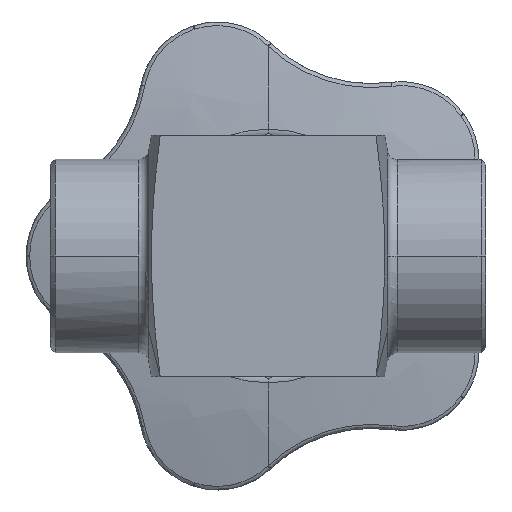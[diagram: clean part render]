
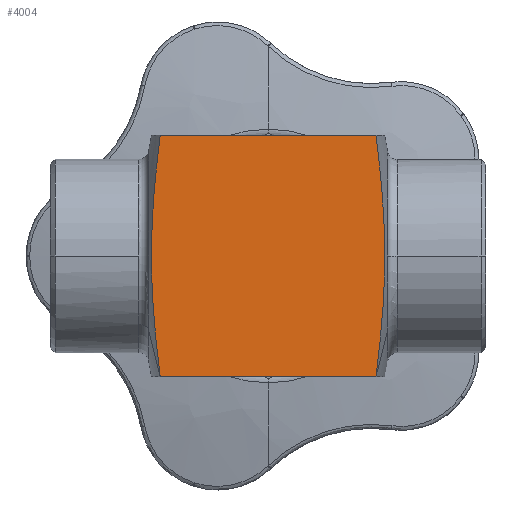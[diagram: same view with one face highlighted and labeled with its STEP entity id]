
A CAD part, front view. The second image highlights one B-rep face of the part: STEP entity #4004.
In plain terms, the highlighted planar face has unit normal (0, -1, 0).
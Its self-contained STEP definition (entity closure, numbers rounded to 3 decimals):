
#86=CARTESIAN_POINT('',(-11.146,-12.5,-12.5));
#102=CARTESIAN_POINT('',(11.146,-12.5,-12.5));
#208=DIRECTION('',(-1.,0.,0.));
#209=VECTOR('',#208,22.292);
#210=CARTESIAN_POINT('',(11.146,-12.5,12.5));
#211=LINE('',#210,#209);
#340=CARTESIAN_POINT('',(-11.146,-12.5,12.5));
#341=CARTESIAN_POINT('',(-11.253,-12.5,11.643));
#342=CARTESIAN_POINT('',(-11.445,-12.5,10.011));
#343=CARTESIAN_POINT('',(-11.665,-12.5,7.869));
#344=CARTESIAN_POINT('',(-11.836,-12.5,5.862));
#345=CARTESIAN_POINT('',(-11.961,-12.5,3.912));
#346=CARTESIAN_POINT('',(-12.041,-12.5,1.963));
#347=CARTESIAN_POINT('',(-12.068,-12.5,-0.002));
#348=CARTESIAN_POINT('',(-12.041,-12.5,-1.968));
#349=CARTESIAN_POINT('',(-11.961,-12.5,-3.917));
#350=CARTESIAN_POINT('',(-11.835,-12.5,-5.865));
#351=CARTESIAN_POINT('',(-11.665,-12.5,-7.87));
#352=CARTESIAN_POINT('',(-11.445,-12.5,-10.011));
#353=CARTESIAN_POINT('',(-11.253,-12.5,-11.642));
#354=CARTESIAN_POINT('',(-11.146,-12.5,-12.5));
#356=CARTESIAN_POINT('',(11.146,-12.5,12.5));
#357=CARTESIAN_POINT('',(11.246,-12.5,11.702));
#358=CARTESIAN_POINT('',(11.425,-12.5,10.183));
#359=CARTESIAN_POINT('',(11.634,-12.5,8.179));
#360=CARTESIAN_POINT('',(11.8,-12.5,6.309));
#361=CARTESIAN_POINT('',(11.927,-12.5,4.503));
#362=CARTESIAN_POINT('',(12.015,-12.5,2.709));
#363=CARTESIAN_POINT('',(12.061,-12.5,0.905));
#364=CARTESIAN_POINT('',(12.061,-12.5,-0.908));
#365=CARTESIAN_POINT('',(12.015,-12.5,-2.713));
#366=CARTESIAN_POINT('',(11.927,-12.5,-4.506));
#367=CARTESIAN_POINT('',(11.8,-12.5,-6.311));
#368=CARTESIAN_POINT('',(11.634,-12.5,-8.18));
#369=CARTESIAN_POINT('',(11.425,-12.5,-10.182));
#370=CARTESIAN_POINT('',(11.246,-12.5,-11.702));
#371=CARTESIAN_POINT('',(11.146,-12.5,-12.5));
#373=DIRECTION('',(-1.,0.,0.));
#374=VECTOR('',#373,22.292);
#375=CARTESIAN_POINT('',(11.146,-12.5,-12.5));
#376=LINE('',#375,#374);
#3551=VERTEX_POINT('',#102);
#3553=VERTEX_POINT('',#356);
#3555=VERTEX_POINT('',#86);
#3557=VERTEX_POINT('',#340);
#3993=CARTESIAN_POINT('',(12.5,-12.5,-12.5));
#3994=DIRECTION('',(0.,-1.,0.));
#3995=DIRECTION('',(0.,0.,1.));
#3996=AXIS2_PLACEMENT_3D('',#3993,#3994,#3995);
#3997=PLANE('',#3996);
#3998=ORIENTED_EDGE('',*,*,#3876,.F.);
#3999=ORIENTED_EDGE('',*,*,#3892,.F.);
#4000=ORIENTED_EDGE('',*,*,#3984,.T.);
#4001=ORIENTED_EDGE('',*,*,#3791,.T.);
#4002=EDGE_LOOP('',(#3998,#3999,#4000,#4001));
#4003=FACE_OUTER_BOUND('',#4002,.F.);
#4004=ADVANCED_FACE('',(#4003),#3997,.T.);
#355=B_SPLINE_CURVE_WITH_KNOTS('',3,(#340,#341,#342,#343,#344,#345,#346,#347,
#348,#349,#350,#351,#352,#353,#354),.UNSPECIFIED.,.F.,.F.,(4,1,1,1,1,1,1,1,1,1,
1,1,4),(0.,0.083,0.167,0.25,0.333,
0.417,0.5,0.583,0.667,0.75,
0.833,0.917,1.),.UNSPECIFIED.);
#372=B_SPLINE_CURVE_WITH_KNOTS('',3,(#356,#357,#358,#359,#360,#361,#362,#363,
#364,#365,#366,#367,#368,#369,#370,#371),.UNSPECIFIED.,.F.,.F.,(4,1,1,1,1,1,1,1,
1,1,1,1,1,4),(0.,0.077,0.154,0.231,
0.308,0.385,0.462,0.538,
0.615,0.692,0.769,0.846,
0.923,1.),.UNSPECIFIED.);
#3791=EDGE_CURVE('',#3551,#3555,#376,.T.);
#3876=EDGE_CURVE('',#3557,#3555,#355,.T.);
#3892=EDGE_CURVE('',#3553,#3557,#211,.T.);
#3984=EDGE_CURVE('',#3553,#3551,#372,.T.);
